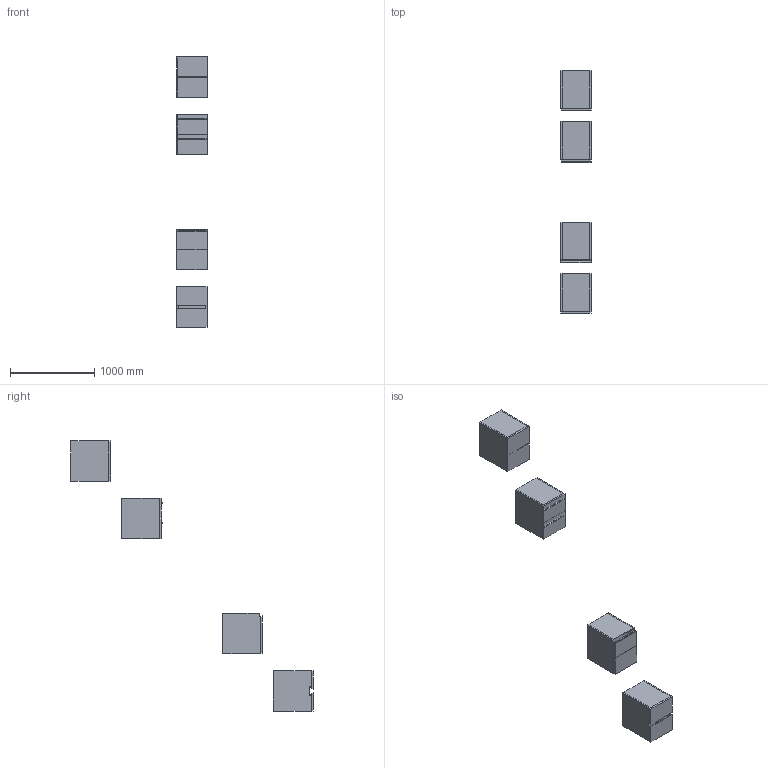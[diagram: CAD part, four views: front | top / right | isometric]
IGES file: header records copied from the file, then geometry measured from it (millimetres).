
Start section: Data from Parasolid IGES Translator 19.0.9, Copyright(c) 2006 Siemens PL M Software. All Rights Reserved.
Global section: file name: noorth-SI-H 48 D 47 W 36_8489.igs; native system: By Siemens PLM Incorporated; preprocessor: XPlus GENERIC/IGES 19.0.9; author: Noname; organization: Noname; date: 20200601.110020; units: metre
Bounding box: 362.66 x 2869.1 x 3200.01 mm (x, y, z)
Volume: 60405049.7 mm3; surface area: 9081055.9 mm2
Topology: 33 solids, 33 shells, 318 faces, 700 edges, 428 vertices
Faces by surface type: plane 230, extrusion 36, bspline 32, cylinder 20
